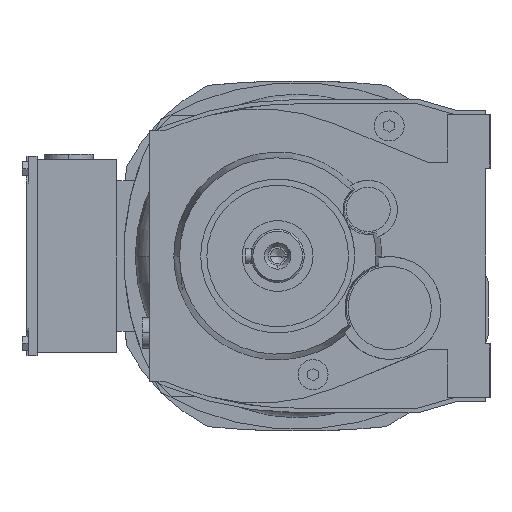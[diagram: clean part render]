
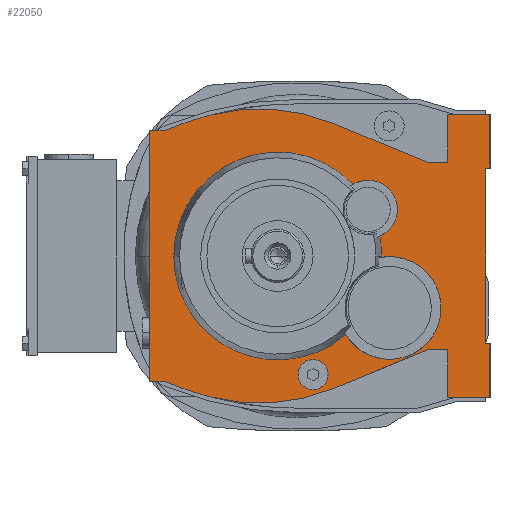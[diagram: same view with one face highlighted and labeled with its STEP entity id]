
A CAD part, left-side view. The second image highlights one B-rep face of the part: STEP entity #22050.
In plain terms, the highlighted planar face has unit normal (-1, 0, 0).
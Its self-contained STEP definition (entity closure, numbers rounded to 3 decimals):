
#120=CARTESIAN_POINT('',(94.,72.5,-71.));
#130=VERTEX_POINT('',#120);
#280=CARTESIAN_POINT('',(94.,72.5,71.));
#290=VERTEX_POINT('',#280);
#320=CARTESIAN_POINT('',(94.,72.5,-71.));
#330=DIRECTION('',(0.,0.,1.));
#340=VECTOR('',#330,1.);
#350=LINE('',#320,#340);
#360=EDGE_CURVE('',#130,#290,#350,.T.);
#610=CARTESIAN_POINT('',(94.,63.5,71.));
#620=DIRECTION('',(0.,1.,0.));
#630=VECTOR('',#620,1.);
#640=LINE('',#610,#630);
#650=CARTESIAN_POINT('',(94.,63.5,71.));
#660=VERTEX_POINT('',#650);
#670=EDGE_CURVE('',#660,#290,#640,.T.);
#1180=CARTESIAN_POINT('',(94.,63.5,-71.));
#1190=DIRECTION('',(0.,1.,0.));
#1200=VECTOR('',#1190,1.);
#1210=LINE('',#1180,#1200);
#1220=CARTESIAN_POINT('',(94.,63.5,-71.));
#1230=VERTEX_POINT('',#1220);
#1240=EDGE_CURVE('',#1230,#130,#1210,.T.);
#1800=CARTESIAN_POINT('',(94.,63.5,-88.));
#1810=DIRECTION('',(0.,0.,-1.));
#1820=VECTOR('',#1810,1.);
#1830=LINE('',#1800,#1820);
#1840=CARTESIAN_POINT('',(94.,63.5,71.041));
#1850=VERTEX_POINT('',#1840);
#1860=EDGE_CURVE('',#1850,#660,#1830,.T.);
#1910=CARTESIAN_POINT('',(94.,63.5,-71.041));
#1920=VERTEX_POINT('',#1910);
#1930=EDGE_CURVE('',#1230,#1920,#1830,.T.);
#6010=CARTESIAN_POINT('',(94.,-31.77,74.84));
#6020=VERTEX_POINT('',#6010);
#6050=CARTESIAN_POINT('',(94.,10.325,-26.786));
#6060=DIRECTION('',(1.,0.,0.));
#6070=DIRECTION('',(0.,-1.,0.));
#6080=AXIS2_PLACEMENT_3D('',#6050,#6060,#6070);
#6090=CIRCLE('',#6080,110.);
#6100=CARTESIAN_POINT('',(94.,38.587,79.521));
#6110=VERTEX_POINT('',#6100);
#6120=EDGE_CURVE('',#6110,#6020,#6090,.T.);
#6430=CARTESIAN_POINT('',(94.,-96.,53.));
#6440=VERTEX_POINT('',#6430);
#6470=CARTESIAN_POINT('',(94.,-4.5,53.));
#6480=DIRECTION('',(0.,1.,0.));
#6490=VECTOR('',#6480,1.);
#6500=LINE('',#6470,#6490);
#6510=CARTESIAN_POINT('',(94.,-84.497,53.));
#6520=VERTEX_POINT('',#6510);
#6530=EDGE_CURVE('',#6440,#6520,#6500,.T.);
#7100=CARTESIAN_POINT('',(94.,-11.,-107.));
#7110=DIRECTION('',(1.,0.,0.));
#7120=DIRECTION('',(0.,1.,0.));
#7130=AXIS2_PLACEMENT_3D('',#7100,#7110,#7120);
#7140=CIRCLE('',#7130,193.);
#7150=EDGE_CURVE('',#1850,#6110,#7140,.T.);
#12200=CARTESIAN_POINT('',(94.,38.587,-79.521));
#12210=VERTEX_POINT('',#12200);
#12430=CARTESIAN_POINT('',(94.,-11.,107.));
#12440=DIRECTION('',(-1.,0.,0.));
#12450=DIRECTION('',(0.,1.,0.));
#12460=AXIS2_PLACEMENT_3D('',#12430,#12440,#12450);
#12470=CIRCLE('',#12460,193.);
#12480=EDGE_CURVE('',#1920,#12210,#12470,.T.);
#12820=CARTESIAN_POINT('',(94.,10.325,26.786));
#12830=DIRECTION('',(-1.,0.,0.));
#12840=DIRECTION('',(0.,-1.,0.));
#12850=AXIS2_PLACEMENT_3D('',#12820,#12830,#12840);
#12860=CIRCLE('',#12850,110.);
#12870=CARTESIAN_POINT('',(94.,-31.77,-74.84));
#12880=VERTEX_POINT('',#12870);
#12890=EDGE_CURVE('',#12210,#12880,#12860,.T.);
#14140=CARTESIAN_POINT('',(94.,-89.628,-41.573));
#14150=VERTEX_POINT('',#14140);
#14180=CARTESIAN_POINT('',(94.,-63.32,-29.37));
#14190=DIRECTION('',(1.,0.,0.));
#14200=DIRECTION('',(0.,0.907,0.421));
#14210=AXIS2_PLACEMENT_3D('',#14180,#14190,#14200);
#14220=CIRCLE('',#14210,29.);
#14230=CARTESIAN_POINT('',(94.,-38.496,-44.363));
#14240=VERTEX_POINT('',#14230);
#14250=EDGE_CURVE('',#14150,#14240,#14220,.T.);
#15160=CARTESIAN_POINT('',(94.,-51.144,26.314));
#15170=DIRECTION('',(1.,0.,0.));
#15180=DIRECTION('',(0.,-0.836,0.548));
#15190=AXIS2_PLACEMENT_3D('',#15160,#15170,#15180);
#15200=CIRCLE('',#15190,16.5);
#15210=CARTESIAN_POINT('',(94.,-42.606,40.433));
#15220=VERTEX_POINT('',#15210);
#15230=CARTESIAN_POINT('',(94.,-64.944,35.36));
#15240=VERTEX_POINT('',#15230);
#15250=EDGE_CURVE('',#15220,#15240,#15200,.T.);
#15690=CARTESIAN_POINT('',(94.,-58.732,-0.736));
#15700=VERTEX_POINT('',#15690);
#16110=CARTESIAN_POINT('',(94.,-58.737,0.));
#16120=VERTEX_POINT('',#16110);
#16150=CARTESIAN_POINT('',(94.,0.,0.));
#16160=DIRECTION('',(1.,0.,0.));
#16170=DIRECTION('',(0.,-1.,0.));
#16180=AXIS2_PLACEMENT_3D('',#16150,#16160,#16170);
#16190=CIRCLE('',#16180,58.737);
#16200=EDGE_CURVE('',#16120,#15700,#16190,.T.);
#16540=CARTESIAN_POINT('',(94.,58.737,0.));
#16550=VERTEX_POINT('',#16540);
#16580=CARTESIAN_POINT('',(94.,0.,0.));
#16590=DIRECTION('',(1.,0.,0.));
#16600=DIRECTION('',(0.,-1.,0.));
#16610=AXIS2_PLACEMENT_3D('',#16580,#16590,#16600);
#16620=CIRCLE('',#16610,58.737);
#16630=EDGE_CURVE('',#16550,#15220,#16620,.T.);
#20570=CARTESIAN_POINT('',(94.,-11.263,-63.787));
#20580=DIRECTION('',(-1.,0.,0.));
#20590=DIRECTION('',(0.,1.,0.));
#20600=AXIS2_PLACEMENT_3D('',#20570,#20580,#20590);
#20610=PLANE('',#20600);
#20620=EDGE_CURVE('',#15700,#14150,#14220,.T.);
#20630=ORIENTED_EDGE('',*,*,#20620,.T.);
#20640=ORIENTED_EDGE('',*,*,#16200,.T.);
#20650=CARTESIAN_POINT('',(94.,-57.667,11.158));
#20660=VERTEX_POINT('',#20650);
#20670=EDGE_CURVE('',#20660,#16120,#16190,.T.);
#20680=ORIENTED_EDGE('',*,*,#20670,.T.);
#20690=EDGE_CURVE('',#15240,#20660,#15200,.T.);
#20700=ORIENTED_EDGE('',*,*,#20690,.T.);
#20710=ORIENTED_EDGE('',*,*,#15250,.T.);
#20720=ORIENTED_EDGE('',*,*,#16630,.T.);
#20730=EDGE_CURVE('',#14240,#16550,#16620,.T.);
#20740=ORIENTED_EDGE('',*,*,#20730,.T.);
#20750=ORIENTED_EDGE('',*,*,#14250,.T.);
#20760=EDGE_LOOP('',(#20750,#20740,#20720,#20710,#20700,#20680,#20640,#20630));
#20770=FACE_BOUND('',#20760,.T.);
#20780=CARTESIAN_POINT('',(94.,63.5,-114.303));
#20790=DIRECTION('',(0.,0.924,-0.383));
#20800=VECTOR('',#20790,1.);
#20810=LINE('',#20780,#20800);
#20820=CARTESIAN_POINT('',(94.,-84.497,-53.));
#20830=VERTEX_POINT('',#20820);
#20840=CARTESIAN_POINT('',(94.,-67.334,-60.109));
#20850=VERTEX_POINT('',#20840);
#20860=EDGE_CURVE('',#20830,#20850,#20810,.T.);
#20870=ORIENTED_EDGE('',*,*,#20860,.F.);
#20880=CARTESIAN_POINT('',(94.,-4.5,-86.136));
#20890=DIRECTION('',(0.,0.924,-0.383));
#20900=VECTOR('',#20890,1.);
#20910=LINE('',#20880,#20900);
#20920=EDGE_CURVE('',#20850,#12880,#20910,.T.);
#20930=ORIENTED_EDGE('',*,*,#20920,.F.);
#20940=ORIENTED_EDGE('',*,*,#12890,.T.);
#20950=ORIENTED_EDGE('',*,*,#12480,.T.);
#20960=ORIENTED_EDGE('',*,*,#1930,.T.);
#20970=ORIENTED_EDGE('',*,*,#1240,.F.);
#20980=ORIENTED_EDGE('',*,*,#360,.F.);
#20990=ORIENTED_EDGE('',*,*,#670,.T.);
#21000=ORIENTED_EDGE('',*,*,#1860,.T.);
#21010=ORIENTED_EDGE('',*,*,#7150,.F.);
#21020=ORIENTED_EDGE('',*,*,#6120,.F.);
#21030=CARTESIAN_POINT('',(94.,-4.5,86.136));
#21040=DIRECTION('',(0.,-0.924,-0.383));
#21050=VECTOR('',#21040,1.);
#21060=LINE('',#21030,#21050);
#21070=EDGE_CURVE('',#6020,#6520,#21060,.T.);
#21080=ORIENTED_EDGE('',*,*,#21070,.F.);
#21090=ORIENTED_EDGE('',*,*,#6530,.T.);
#21100=CARTESIAN_POINT('',(94.,-96.,-88.));
#21110=DIRECTION('',(0.,0.,-1.));
#21120=VECTOR('',#21110,1.);
#21130=LINE('',#21100,#21120);
#21140=CARTESIAN_POINT('',(94.,-96.,80.));
#21150=VERTEX_POINT('',#21140);
#21160=EDGE_CURVE('',#21150,#6440,#21130,.T.);
#21170=ORIENTED_EDGE('',*,*,#21160,.T.);
#21180=CARTESIAN_POINT('',(94.,-4.5,80.));
#21190=DIRECTION('',(0.,1.,0.));
#21200=VECTOR('',#21190,1.);
#21210=LINE('',#21180,#21200);
#21220=CARTESIAN_POINT('',(94.,-120.,80.));
#21230=VERTEX_POINT('',#21220);
#21240=EDGE_CURVE('',#21230,#21150,#21210,.T.);
#21250=ORIENTED_EDGE('',*,*,#21240,.T.);
#21260=CARTESIAN_POINT('',(94.,-120.,-88.));
#21270=DIRECTION('',(0.,0.,-1.));
#21280=VECTOR('',#21270,1.);
#21290=LINE('',#21260,#21280);
#21300=CARTESIAN_POINT('',(94.,-120.,49.719));
#21310=VERTEX_POINT('',#21300);
#21320=EDGE_CURVE('',#21230,#21310,#21290,.T.);
#21330=ORIENTED_EDGE('',*,*,#21320,.F.);
#21340=CARTESIAN_POINT('',(94.,-4.5,33.486));
#21350=DIRECTION('',(0.,0.99,-0.139));
#21360=VECTOR('',#21350,1.);
#21370=LINE('',#21340,#21360);
#21380=CARTESIAN_POINT('',(94.,-117.5,49.368));
#21390=VERTEX_POINT('',#21380);
#21400=EDGE_CURVE('',#21310,#21390,#21370,.T.);
#21410=ORIENTED_EDGE('',*,*,#21400,.F.);
#21420=CARTESIAN_POINT('',(94.,-117.5,-88.));
#21430=DIRECTION('',(0.,0.,-1.));
#21440=VECTOR('',#21430,1.);
#21450=LINE('',#21420,#21440);
#21460=CARTESIAN_POINT('',(94.,-117.5,-49.368));
#21470=VERTEX_POINT('',#21460);
#21480=EDGE_CURVE('',#21390,#21470,#21450,.T.);
#21490=ORIENTED_EDGE('',*,*,#21480,.F.);
#21500=CARTESIAN_POINT('',(94.,-4.5,-33.486));
#21510=DIRECTION('',(0.,0.99,0.139));
#21520=VECTOR('',#21510,1.);
#21530=LINE('',#21500,#21520);
#21540=CARTESIAN_POINT('',(94.,-120.,-49.719));
#21550=VERTEX_POINT('',#21540);
#21560=EDGE_CURVE('',#21550,#21470,#21530,.T.);
#21570=ORIENTED_EDGE('',*,*,#21560,.T.);
#21580=CARTESIAN_POINT('',(94.,-120.,-88.));
#21590=DIRECTION('',(0.,0.,-1.));
#21600=VECTOR('',#21590,1.);
#21610=LINE('',#21580,#21600);
#21620=CARTESIAN_POINT('',(94.,-120.,-80.));
#21630=VERTEX_POINT('',#21620);
#21640=EDGE_CURVE('',#21550,#21630,#21610,.T.);
#21650=ORIENTED_EDGE('',*,*,#21640,.F.);
#21660=CARTESIAN_POINT('',(94.,-4.5,-80.));
#21670=DIRECTION('',(0.,1.,0.));
#21680=VECTOR('',#21670,1.);
#21690=LINE('',#21660,#21680);
#21700=CARTESIAN_POINT('',(94.,-96.,-80.));
#21710=VERTEX_POINT('',#21700);
#21720=EDGE_CURVE('',#21630,#21710,#21690,.T.);
#21730=ORIENTED_EDGE('',*,*,#21720,.F.);
#21740=CARTESIAN_POINT('',(94.,-96.,-88.));
#21750=DIRECTION('',(0.,0.,1.));
#21760=VECTOR('',#21750,1.);
#21770=LINE('',#21740,#21760);
#21780=CARTESIAN_POINT('',(94.,-96.,-53.));
#21790=VERTEX_POINT('',#21780);
#21800=EDGE_CURVE('',#21710,#21790,#21770,.T.);
#21810=ORIENTED_EDGE('',*,*,#21800,.F.);
#21820=CARTESIAN_POINT('',(94.,63.5,-53.));
#21830=DIRECTION('',(0.,1.,0.));
#21840=VECTOR('',#21830,1.);
#21850=LINE('',#21820,#21840);
#21860=EDGE_CURVE('',#21790,#20830,#21850,.T.);
#21870=ORIENTED_EDGE('',*,*,#21860,.F.);
#21880=EDGE_LOOP('',(#21870,#21810,#21730,#21650,#21570,#21490,#21410,#21330,#21250,#21170,#21090,#21080,#21020,#21010,#21000,#20990,#20980,#20970,#20960,#20950,#20940,#20930,#20870));
#21890=FACE_OUTER_BOUND('',#21880,.T.);
#21900=CARTESIAN_POINT('',(94.,-20.,-67.));
#21910=DIRECTION('',(-1.,0.,0.));
#21920=DIRECTION('',(0.,1.,0.));
#21930=AXIS2_PLACEMENT_3D('',#21900,#21910,#21920);
#21940=CIRCLE('',#21930,8.5);
#21950=CARTESIAN_POINT('',(94.,-11.5,-67.));
#21960=VERTEX_POINT('',#21950);
#21970=CARTESIAN_POINT('',(94.,-28.5,-67.));
#21980=VERTEX_POINT('',#21970);
#21990=EDGE_CURVE('',#21960,#21980,#21940,.T.);
#22000=ORIENTED_EDGE('',*,*,#21990,.F.);
#22010=EDGE_CURVE('',#21980,#21960,#21940,.T.);
#22020=ORIENTED_EDGE('',*,*,#22010,.F.);
#22030=EDGE_LOOP('',(#22020,#22000));
#22040=FACE_BOUND('',#22030,.T.);
#22050=ADVANCED_FACE('',(#20770,#21890,#22040),#20610,.T.);
